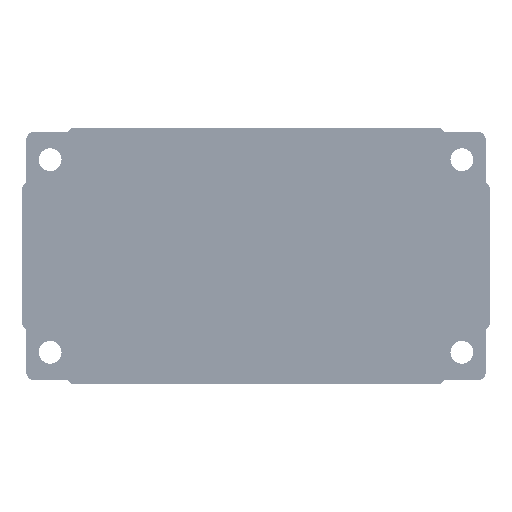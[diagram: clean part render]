
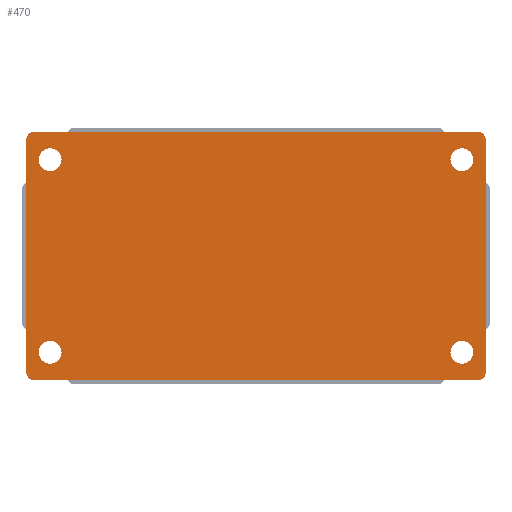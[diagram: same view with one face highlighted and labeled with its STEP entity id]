
A CAD part, front view. The second image highlights one B-rep face of the part: STEP entity #470.
In plain terms, the highlighted planar face has unit normal (0, -1, 0).
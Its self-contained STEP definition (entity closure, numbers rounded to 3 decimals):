
#143=CARTESIAN_POINT('',(49.69,0.,23.26));
#144=DIRECTION('',(0.,1.,0.));
#145=DIRECTION('',(-1.,0.,0.));
#146=AXIS2_PLACEMENT_3D('',#143,#144,#145);
#148=CARTESIAN_POINT('',(49.69,0.,23.26));
#149=DIRECTION('',(0.,1.,0.));
#150=DIRECTION('',(1.,0.,0.));
#151=AXIS2_PLACEMENT_3D('',#148,#149,#150);
#153=CARTESIAN_POINT('',(49.69,0.,-23.24));
#154=DIRECTION('',(0.,1.,0.));
#155=DIRECTION('',(1.,0.,0.));
#156=AXIS2_PLACEMENT_3D('',#153,#154,#155);
#158=CARTESIAN_POINT('',(49.69,0.,-23.24));
#159=DIRECTION('',(0.,1.,0.));
#160=DIRECTION('',(-1.,0.,0.));
#161=AXIS2_PLACEMENT_3D('',#158,#159,#160);
#163=CARTESIAN_POINT('',(-49.71,0.,23.26));
#164=DIRECTION('',(0.,1.,0.));
#165=DIRECTION('',(-1.,0.,0.));
#166=AXIS2_PLACEMENT_3D('',#163,#164,#165);
#168=CARTESIAN_POINT('',(-49.71,0.,23.26));
#169=DIRECTION('',(0.,1.,0.));
#170=DIRECTION('',(1.,0.,0.));
#171=AXIS2_PLACEMENT_3D('',#168,#169,#170);
#173=CARTESIAN_POINT('',(-49.71,0.,-23.24));
#174=DIRECTION('',(0.,1.,0.));
#175=DIRECTION('',(-1.,0.,0.));
#176=AXIS2_PLACEMENT_3D('',#173,#174,#175);
#178=CARTESIAN_POINT('',(-49.71,0.,-23.24));
#179=DIRECTION('',(0.,1.,0.));
#180=DIRECTION('',(1.,0.,0.));
#181=AXIS2_PLACEMENT_3D('',#178,#179,#180);
#183=CARTESIAN_POINT('',(53.5,0.,28.));
#184=DIRECTION('',(0.,-1.,0.));
#185=DIRECTION('',(1.,0.,0.));
#186=AXIS2_PLACEMENT_3D('',#183,#184,#185);
#188=CARTESIAN_POINT('',(53.5,0.,-28.));
#189=DIRECTION('',(0.,-1.,0.));
#190=DIRECTION('',(0.,0.,-1.));
#191=AXIS2_PLACEMENT_3D('',#188,#189,#190);
#193=CARTESIAN_POINT('',(-53.5,0.,-28.));
#194=DIRECTION('',(0.,-1.,0.));
#195=DIRECTION('',(-1.,0.,0.));
#196=AXIS2_PLACEMENT_3D('',#193,#194,#195);
#198=CARTESIAN_POINT('',(-53.5,0.,28.));
#199=DIRECTION('',(0.,-1.,0.));
#200=DIRECTION('',(0.,0.,1.));
#201=AXIS2_PLACEMENT_3D('',#198,#199,#200);
#303=DIRECTION('',(-1.,0.,0.));
#304=VECTOR('',#303,107.);
#305=CARTESIAN_POINT('',(53.5,0.,30.));
#306=LINE('',#305,#304);
#319=DIRECTION('',(0.,0.,-1.));
#320=VECTOR('',#319,56.);
#321=CARTESIAN_POINT('',(-55.5,0.,28.));
#322=LINE('',#321,#320);
#339=DIRECTION('',(1.,0.,0.));
#340=VECTOR('',#339,107.);
#341=CARTESIAN_POINT('',(-53.5,0.,-30.));
#342=LINE('',#341,#340);
#355=DIRECTION('',(0.,0.,1.));
#356=VECTOR('',#355,56.);
#357=CARTESIAN_POINT('',(55.5,0.,-28.));
#358=LINE('',#357,#356);
#359=CARTESIAN_POINT('',(46.94,0.,23.26));
#360=CARTESIAN_POINT('',(52.44,0.,23.26));
#361=VERTEX_POINT('',#359);
#362=VERTEX_POINT('',#360);
#363=CARTESIAN_POINT('',(52.44,0.,-23.24));
#364=CARTESIAN_POINT('',(46.94,0.,-23.24));
#365=VERTEX_POINT('',#363);
#366=VERTEX_POINT('',#364);
#367=CARTESIAN_POINT('',(-52.46,0.,23.26));
#368=CARTESIAN_POINT('',(-46.96,0.,23.26));
#369=VERTEX_POINT('',#367);
#370=VERTEX_POINT('',#368);
#371=CARTESIAN_POINT('',(-52.46,0.,-23.24));
#372=CARTESIAN_POINT('',(-46.96,0.,-23.24));
#373=VERTEX_POINT('',#371);
#374=VERTEX_POINT('',#372);
#391=CARTESIAN_POINT('',(55.5,0.,28.));
#392=CARTESIAN_POINT('',(53.5,0.,30.));
#393=VERTEX_POINT('',#391);
#394=VERTEX_POINT('',#392);
#399=CARTESIAN_POINT('',(-53.5,0.,30.));
#400=CARTESIAN_POINT('',(-55.5,0.,28.));
#401=VERTEX_POINT('',#399);
#402=VERTEX_POINT('',#400);
#407=CARTESIAN_POINT('',(53.5,0.,-30.));
#408=CARTESIAN_POINT('',(55.5,0.,-28.));
#409=VERTEX_POINT('',#407);
#410=VERTEX_POINT('',#408);
#415=CARTESIAN_POINT('',(-55.5,0.,-28.));
#416=CARTESIAN_POINT('',(-53.5,0.,-30.));
#417=VERTEX_POINT('',#415);
#418=VERTEX_POINT('',#416);
#423=CARTESIAN_POINT('',(0.,0.,0.));
#424=DIRECTION('',(0.,1.,0.));
#425=DIRECTION('',(1.,0.,0.));
#426=AXIS2_PLACEMENT_3D('',#423,#424,#425);
#427=PLANE('',#426);
#429=ORIENTED_EDGE('',*,*,#428,.F.);
#431=ORIENTED_EDGE('',*,*,#430,.F.);
#433=ORIENTED_EDGE('',*,*,#432,.F.);
#435=ORIENTED_EDGE('',*,*,#434,.F.);
#437=ORIENTED_EDGE('',*,*,#436,.F.);
#439=ORIENTED_EDGE('',*,*,#438,.F.);
#441=ORIENTED_EDGE('',*,*,#440,.F.);
#443=ORIENTED_EDGE('',*,*,#442,.F.);
#444=EDGE_LOOP('',(#429,#431,#433,#435,#437,#439,#441,#443));
#445=FACE_OUTER_BOUND('',#444,.F.);
#447=ORIENTED_EDGE('',*,*,#446,.F.);
#449=ORIENTED_EDGE('',*,*,#448,.F.);
#450=EDGE_LOOP('',(#447,#449));
#451=FACE_BOUND('',#450,.F.);
#453=ORIENTED_EDGE('',*,*,#452,.F.);
#455=ORIENTED_EDGE('',*,*,#454,.F.);
#456=EDGE_LOOP('',(#453,#455));
#457=FACE_BOUND('',#456,.F.);
#459=ORIENTED_EDGE('',*,*,#458,.F.);
#461=ORIENTED_EDGE('',*,*,#460,.F.);
#462=EDGE_LOOP('',(#459,#461));
#463=FACE_BOUND('',#462,.F.);
#465=ORIENTED_EDGE('',*,*,#464,.F.);
#467=ORIENTED_EDGE('',*,*,#466,.F.);
#468=EDGE_LOOP('',(#465,#467));
#469=FACE_BOUND('',#468,.F.);
#470=ADVANCED_FACE('',(#445,#451,#457,#463,#469),#427,.F.);
#147=CIRCLE('',#146,2.75);
#152=CIRCLE('',#151,2.75);
#157=CIRCLE('',#156,2.75);
#162=CIRCLE('',#161,2.75);
#167=CIRCLE('',#166,2.75);
#172=CIRCLE('',#171,2.75);
#177=CIRCLE('',#176,2.75);
#182=CIRCLE('',#181,2.75);
#187=CIRCLE('',#186,2.);
#192=CIRCLE('',#191,2.);
#197=CIRCLE('',#196,2.);
#202=CIRCLE('',#201,2.);
#428=EDGE_CURVE('',#393,#394,#187,.T.);
#430=EDGE_CURVE('',#410,#393,#358,.T.);
#432=EDGE_CURVE('',#409,#410,#192,.T.);
#434=EDGE_CURVE('',#418,#409,#342,.T.);
#436=EDGE_CURVE('',#417,#418,#197,.T.);
#438=EDGE_CURVE('',#402,#417,#322,.T.);
#440=EDGE_CURVE('',#401,#402,#202,.T.);
#442=EDGE_CURVE('',#394,#401,#306,.T.);
#446=EDGE_CURVE('',#365,#366,#157,.T.);
#448=EDGE_CURVE('',#366,#365,#162,.T.);
#452=EDGE_CURVE('',#369,#370,#167,.T.);
#454=EDGE_CURVE('',#370,#369,#172,.T.);
#458=EDGE_CURVE('',#373,#374,#177,.T.);
#460=EDGE_CURVE('',#374,#373,#182,.T.);
#464=EDGE_CURVE('',#361,#362,#147,.T.);
#466=EDGE_CURVE('',#362,#361,#152,.T.);
